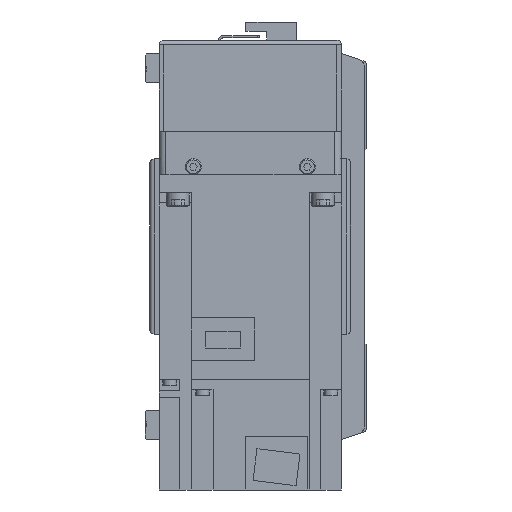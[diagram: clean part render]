
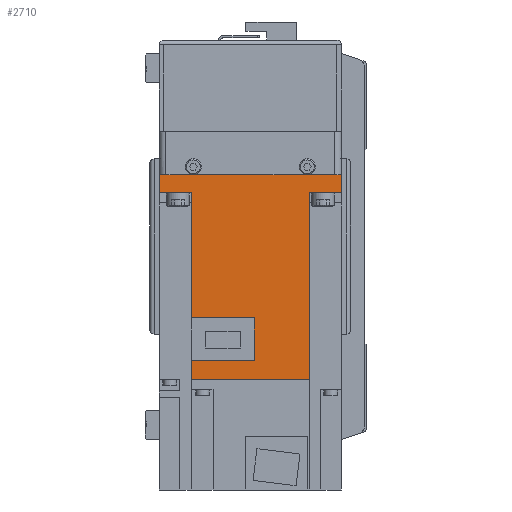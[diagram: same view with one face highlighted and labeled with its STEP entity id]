
A CAD part, left-side view. The second image highlights one B-rep face of the part: STEP entity #2710.
In plain terms, the highlighted planar face has unit normal (-1, 0, 0) as drawn and (1, 0, 0) by its records, which use the part's own axes.
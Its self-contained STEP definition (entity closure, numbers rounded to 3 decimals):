
#2710 = ADVANCED_FACE( '', ( #5741 ), #5742, .F. );
#5741 = FACE_OUTER_BOUND( '', #8987, .T. );
#5742 = PLANE( '', #8988 );
#8987 = EDGE_LOOP( '', ( #16572, #16573, #16574, #16575, #16576, #16577, #16578, #16579, #16580, #16581, #16582, #16583 ) );
#8988 = AXIS2_PLACEMENT_3D( '', #16584, #16585, #16586 );
#16572 = ORIENTED_EDGE( '', *, *, #19338, .F. );
#16573 = ORIENTED_EDGE( '', *, *, #20300, .F. );
#16574 = ORIENTED_EDGE( '', *, *, #18777, .F. );
#16575 = ORIENTED_EDGE( '', *, *, #21652, .T. );
#16576 = ORIENTED_EDGE( '', *, *, #20229, .F. );
#16577 = ORIENTED_EDGE( '', *, *, #21653, .T. );
#16578 = ORIENTED_EDGE( '', *, *, #19303, .T. );
#16579 = ORIENTED_EDGE( '', *, *, #21654, .F. );
#16580 = ORIENTED_EDGE( '', *, *, #18660, .F. );
#16581 = ORIENTED_EDGE( '', *, *, #20302, .F. );
#16582 = ORIENTED_EDGE( '', *, *, #21629, .F. );
#16583 = ORIENTED_EDGE( '', *, *, #21655, .F. );
#16584 = CARTESIAN_POINT( '', ( 40., 89.8, 40. ) );
#16585 = DIRECTION( '', ( -1., 0., 0. ) );
#16586 = DIRECTION( '', ( 0., 0., 1. ) );
#18660 = EDGE_CURVE( '', #22201, #22202, #22203, .T. );
#18777 = EDGE_CURVE( '', #22415, #22411, #22417, .T. );
#19303 = EDGE_CURVE( '', #23340, #23338, #23341, .T. );
#19338 = EDGE_CURVE( '', #23396, #23398, #23399, .T. );
#20229 = EDGE_CURVE( '', #24843, #24845, #24846, .T. );
#20300 = EDGE_CURVE( '', #22411, #23396, #24952, .T. );
#20302 = EDGE_CURVE( '', #24953, #22201, #24955, .T. );
#21629 = EDGE_CURVE( '', #26726, #24953, #26727, .T. );
#21652 = EDGE_CURVE( '', #22415, #24845, #26754, .T. );
#21653 = EDGE_CURVE( '', #24843, #23340, #26755, .T. );
#21654 = EDGE_CURVE( '', #22202, #23338, #26756, .T. );
#21655 = EDGE_CURVE( '', #23398, #26726, #26757, .T. );
#22201 = VERTEX_POINT( '', #27442 );
#22202 = VERTEX_POINT( '', #27443 );
#22203 = LINE( '', #27444, #27445 );
#22411 = VERTEX_POINT( '', #27756 );
#22415 = VERTEX_POINT( '', #27762 );
#22417 = LINE( '', #27765, #27766 );
#23338 = VERTEX_POINT( '', #28989 );
#23340 = VERTEX_POINT( '', #28992 );
#23341 = LINE( '', #28993, #28994 );
#23396 = VERTEX_POINT( '', #29062 );
#23398 = VERTEX_POINT( '', #29065 );
#23399 = LINE( '', #29066, #29067 );
#24843 = VERTEX_POINT( '', #31158 );
#24845 = VERTEX_POINT( '', #31161 );
#24846 = LINE( '', #31162, #31163 );
#24952 = LINE( '', #31347, #31348 );
#24953 = VERTEX_POINT( '', #31349 );
#24955 = LINE( '', #31352, #31353 );
#26726 = VERTEX_POINT( '', #34110 );
#26727 = LINE( '', #34111, #34112 );
#26754 = LINE( '', #34147, #34148 );
#26755 = LINE( '', #34149, #34150 );
#26756 = LINE( '', #34151, #34152 );
#26757 = LINE( '', #34153, #34154 );
#27442 = CARTESIAN_POINT( '', ( 40., 8., -25.95 ) );
#27443 = CARTESIAN_POINT( '', ( 40., 8., -40. ) );
#27444 = CARTESIAN_POINT( '', ( 40., 8., 40. ) );
#27445 = VECTOR( '', #34745, 1000. );
#27756 = CARTESIAN_POINT( '', ( 40., 89.8, -25.95 ) );
#27762 = CARTESIAN_POINT( '', ( 40., 89.8, 25.95 ) );
#27765 = CARTESIAN_POINT( '', ( 40., 89.8, 40. ) );
#27766 = VECTOR( '', #34905, 1000. );
#28989 = CARTESIAN_POINT( '', ( 40., 0., -40. ) );
#28992 = CARTESIAN_POINT( '', ( 40., 0., 40. ) );
#28993 = CARTESIAN_POINT( '', ( 40., 0., 40. ) );
#28994 = VECTOR( '', #35623, 1000. );
#29062 = CARTESIAN_POINT( '', ( 40., 81.4, -25.95 ) );
#29065 = CARTESIAN_POINT( '', ( 40., 81.4, 1.8 ) );
#29066 = CARTESIAN_POINT( '', ( 40., 81.4, -26. ) );
#29067 = VECTOR( '', #35674, 1000. );
#31158 = CARTESIAN_POINT( '', ( 40., 8., 40. ) );
#31161 = CARTESIAN_POINT( '', ( 40., 8., 25.95 ) );
#31162 = CARTESIAN_POINT( '', ( 40., 8., 40. ) );
#31163 = VECTOR( '', #36832, 1000. );
#31347 = CARTESIAN_POINT( '', ( 40., 158., -25.95 ) );
#31348 = VECTOR( '', #36916, 1000. );
#31349 = CARTESIAN_POINT( '', ( 40., 62.8, -25.95 ) );
#31352 = CARTESIAN_POINT( '', ( 40., 158., -25.95 ) );
#31353 = VECTOR( '', #36918, 1000. );
#34110 = CARTESIAN_POINT( '', ( 40., 62.8, 1.8 ) );
#34111 = CARTESIAN_POINT( '', ( 40., 62.8, 1.8 ) );
#34112 = VECTOR( '', #38307, 1000. );
#34147 = CARTESIAN_POINT( '', ( 40., 158., 25.95 ) );
#34148 = VECTOR( '', #38328, 1000. );
#34149 = CARTESIAN_POINT( '', ( 40., 89.8, 40. ) );
#34150 = VECTOR( '', #38329, 1000. );
#34151 = CARTESIAN_POINT( '', ( 40., 89.8, -40. ) );
#34152 = VECTOR( '', #38330, 1000. );
#34153 = CARTESIAN_POINT( '', ( 40., 81.4, 1.8 ) );
#34154 = VECTOR( '', #38331, 1000. );
#34745 = DIRECTION( '', ( 0., 0., -1. ) );
#34905 = DIRECTION( '', ( 0., 0., -1. ) );
#35623 = DIRECTION( '', ( 0., 0., -1. ) );
#35674 = DIRECTION( '', ( 0., 0., 1. ) );
#36832 = DIRECTION( '', ( 0., 0., -1. ) );
#36916 = DIRECTION( '', ( 0., -1., 0. ) );
#36918 = DIRECTION( '', ( 0., -1., 0. ) );
#38307 = DIRECTION( '', ( 0., 0., -1. ) );
#38328 = DIRECTION( '', ( 0., -1., 0. ) );
#38329 = DIRECTION( '', ( 0., -1., 0. ) );
#38330 = DIRECTION( '', ( 0., -1., 0. ) );
#38331 = DIRECTION( '', ( 0., -1., 0. ) );
